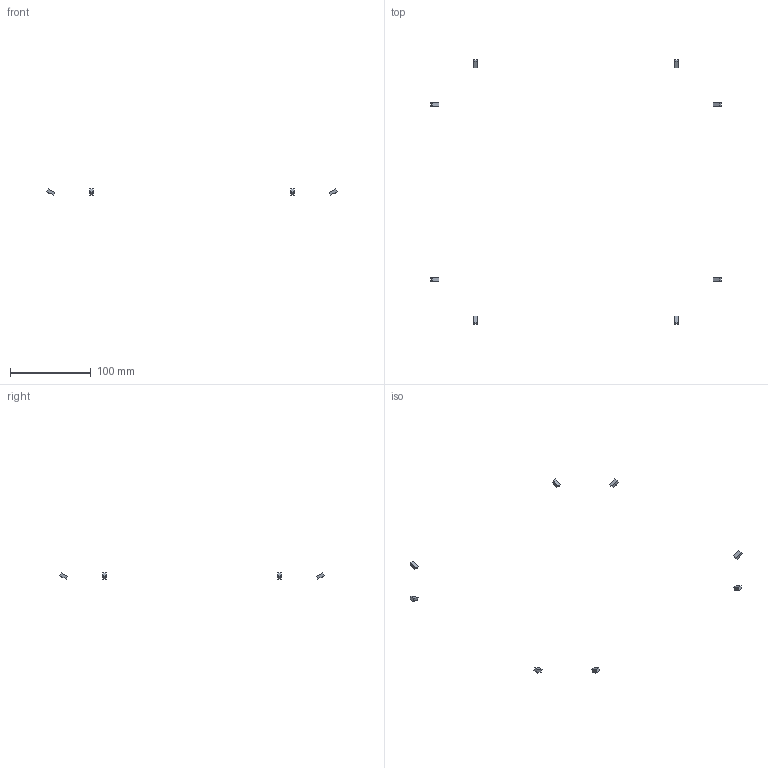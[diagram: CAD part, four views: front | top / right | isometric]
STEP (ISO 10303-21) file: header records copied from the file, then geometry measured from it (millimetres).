
FILE_DESCRIPTION(('Open CASCADE Model'),'2;1');
FILE_NAME('Open CASCADE Shape Model','2026-10-21T19:15:51',('Author'),( 'Open CASCADE'),'Open CASCADE STEP processor 8.0','build123d', 'Unknown');
FILE_SCHEMA(('AUTOMOTIVE_DESIGN { 1 0 10303 214 1 1 1 1 }'));
Length unit declared in the file: millimetre
Products named in the file (17): COMPOUND; SOLID
Assembly tree (16 placements, depth 2):
  COMPOUND
    SOLID
    SOLID
    SOLID
    SOLID
    SOLID
    SOLID
    SOLID
    SOLID
    SOLID
    SOLID
    SOLID
    SOLID
    SOLID
    SOLID
    SOLID
    SOLID
Bounding box: 359.2 x 327.2 x 7.46 mm (x, y, z)
Volume: 1404.5 mm3; surface area: 1742.2 mm2
Topology: 16 solids, 16 shells, 96 faces, 192 edges, 128 vertices
Faces by surface type: plane 96
Entity records: 5008 total; most frequent: CARTESIAN_POINT 1009, DIRECTION 610, ORIENTED_EDGE 384, LINE 384, VECTOR 384, PCURVE 384, DEFINITIONAL_REPRESENTATION 384, EDGE_CURVE 192
